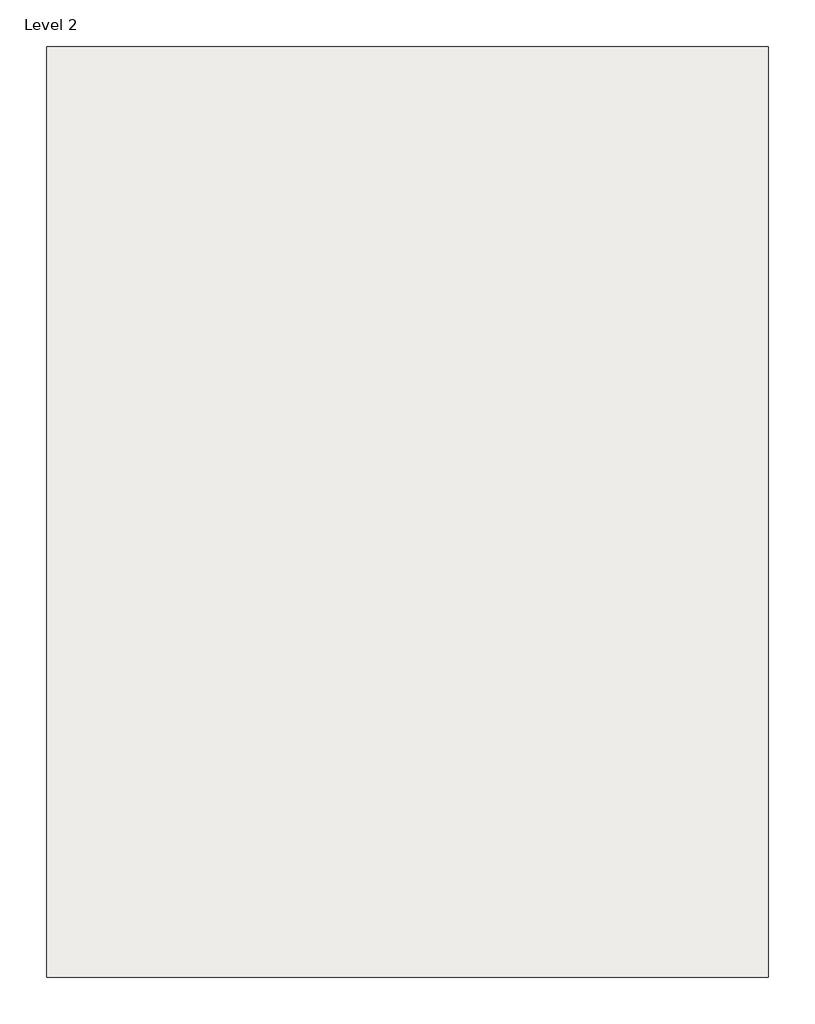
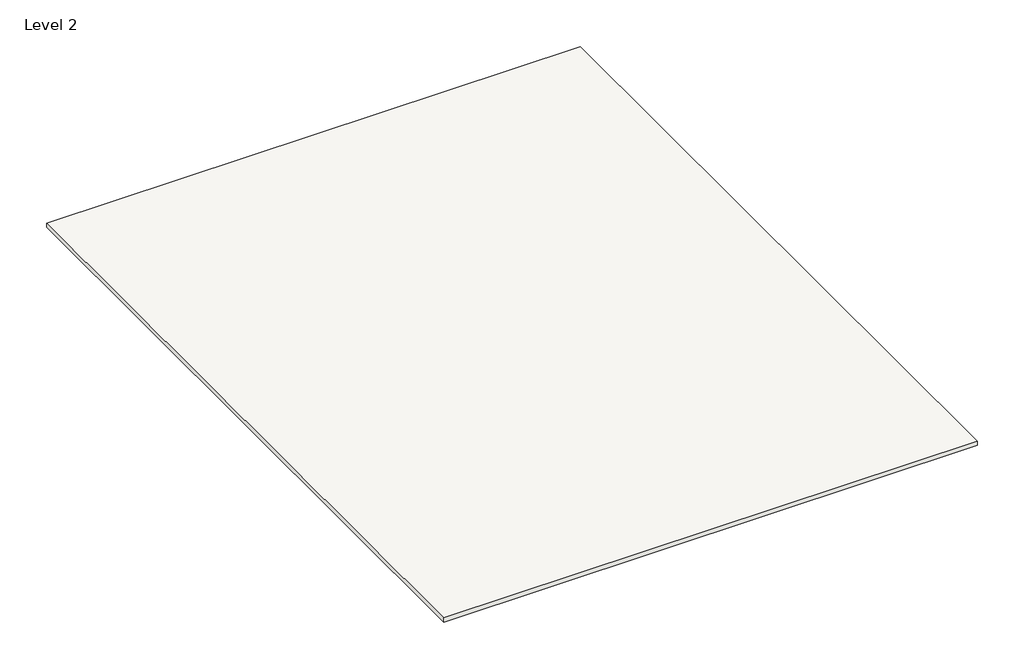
# One storey: 1 covering.
"""IFC4 building model written with IfcOpenShell, lengths in millimetres."""

from ifc_helpers import new_model, si_unit, frame, origin, place, context, project, spatial, polyline, outline, extrude, element, save

model = new_model("IFC4")

# Units and contexts
model_context = context("Model", 3, world=origin())
ifc_project = project(units=[si_unit("LENGTHUNIT", "METRE", prefix="MILLI")], contexts=[model_context])

# Site, building, storey
site = spatial("IfcSite", under=ifc_project)
building = spatial("IfcBuilding", under=site)
storey = spatial("IfcBuildingStorey", under=building, Name="Level 2", Elevation=7000.0)

# Covering
placement = place(None, origin())
element("IfcCovering", 1, ObjectType="GWB on Mtl Stud", at=placement, inside=storey, context=model_context, shape_type="SweptSolid", body=[
    extrude(outline(polyline([(3872.0161744, 10078.1535958), (3872.0161744, 1178.1535958), (-3027.9838256, 1178.1535958), (-3027.9838256, 10078.1535958), (3872.0161744, 10078.1535958)])), frame((0.0, 0.0, 7000.0), z_axis=(0.0, 0.0, 1.0), x_axis=(1.0, 0.0, 0.0)), (0.0, 0.0, 1.0), 57.0),
])

save(model, "model.ifc")
